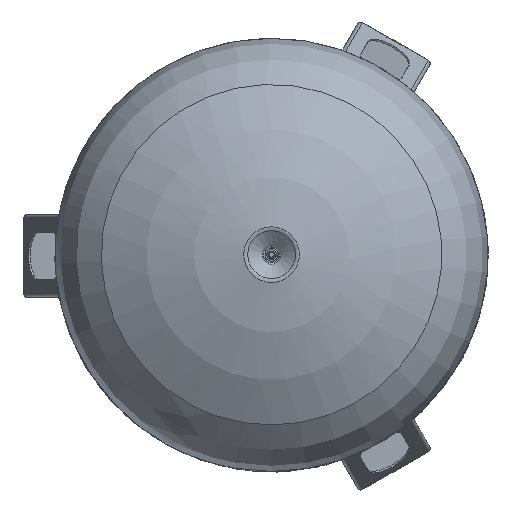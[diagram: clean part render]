
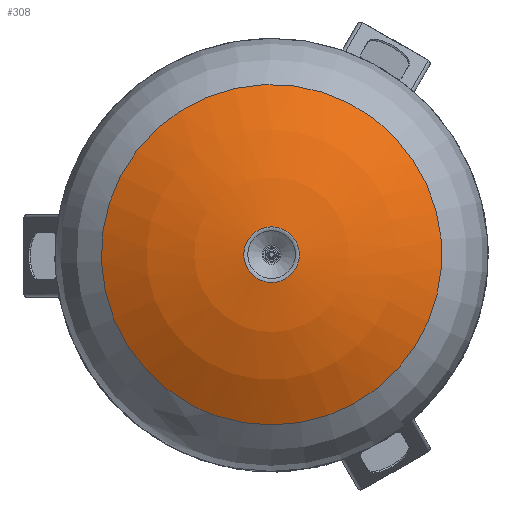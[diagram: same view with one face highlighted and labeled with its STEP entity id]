
A CAD part, top view. The second image highlights one B-rep face of the part: STEP entity #308.
In plain terms, the highlighted spherical face has radius 280 mm.
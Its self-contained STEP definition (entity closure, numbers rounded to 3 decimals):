
#308=ADVANCED_FACE('',(#3663,#3665),#3667,.T.);
#3663=FACE_BOUND('',#3664,.T.);
#3664=EDGE_LOOP('',(#6479,#6480,#6481));
#3665=FACE_BOUND('',#3666,.T.);
#3666=EDGE_LOOP('',(#6482,#6483,#6484));
#3667=SPHERICAL_SURFACE('',#3668,280.);
#3668=AXIS2_PLACEMENT_3D('',#3669,#3670,#3671);
#3669=CARTESIAN_POINT('',(0.,0.,-26.597));
#3670=DIRECTION('',(0.,0.,-1.));
#3671=DIRECTION('',(0.,1.,0.));
#6479=ORIENTED_EDGE('',*,*,#8323,.T.);
#6480=ORIENTED_EDGE('',*,*,#8324,.T.);
#6481=ORIENTED_EDGE('',*,*,#8325,.T.);
#6482=ORIENTED_EDGE('',*,*,#8326,.F.);
#6483=ORIENTED_EDGE('',*,*,#8327,.F.);
#6484=ORIENTED_EDGE('',*,*,#8328,.F.);
#8323=EDGE_CURVE('',#9308,#9309,#9310,.T.);
#8324=EDGE_CURVE('',#9309,#9311,#9312,.T.);
#8325=EDGE_CURVE('',#9311,#9308,#9313,.T.);
#8326=EDGE_CURVE('',#9314,#9315,#9316,.T.);
#8327=EDGE_CURVE('',#9317,#9314,#9318,.T.);
#8328=EDGE_CURVE('',#9315,#9317,#9319,.T.);
#9308=VERTEX_POINT('',#11466);
#9309=VERTEX_POINT('',#11467);
#9310=CIRCLE('',#11468,143.5);
#9311=VERTEX_POINT('',#11472);
#9312=CIRCLE('',#11473,143.5);
#9313=CIRCLE('',#11477,143.5);
#9314=VERTEX_POINT('',#11481);
#9315=VERTEX_POINT('',#11482);
#9316=CIRCLE('',#11483,23.418);
#9317=VERTEX_POINT('',#11487);
#9318=CIRCLE('',#11488,23.418);
#9319=CIRCLE('',#11492,23.418);
#11466=CARTESIAN_POINT('',(86.9,114.195,213.835));
#11467=CARTESIAN_POINT('',(-67.267,-126.757,213.835));
#11468=AXIS2_PLACEMENT_3D('',#11469,#11470,#11471);
#11469=CARTESIAN_POINT('',(0.,0.,213.835));
#11470=DIRECTION('',(0.,0.,1.));
#11471=DIRECTION('',(0.606,0.796,0.));
#11472=CARTESIAN_POINT('',(-45.854,-135.977,213.835));
#11473=AXIS2_PLACEMENT_3D('',#11474,#11475,#11476);
#11474=CARTESIAN_POINT('',(0.,0.,213.835));
#11475=DIRECTION('',(0.,0.,1.));
#11476=DIRECTION('',(-0.469,-0.883,0.));
#11477=AXIS2_PLACEMENT_3D('',#11478,#11479,#11480);
#11478=CARTESIAN_POINT('',(0.,0.,213.835));
#11479=DIRECTION('',(0.,0.,1.));
#11480=DIRECTION('',(-0.32,-0.948,0.));
#11481=CARTESIAN_POINT('',(0.,-23.418,252.422));
#11482=CARTESIAN_POINT('',(0.,23.418,252.422));
#11483=AXIS2_PLACEMENT_3D('',#11484,#11485,#11486);
#11484=CARTESIAN_POINT('',(0.,0.,252.422));
#11485=DIRECTION('',(0.,0.,1.));
#11486=DIRECTION('',(0.,-1.,0.));
#11487=CARTESIAN_POINT('',(-7.483,-22.19,252.422));
#11488=AXIS2_PLACEMENT_3D('',#11489,#11490,#11491);
#11489=CARTESIAN_POINT('',(0.,0.,252.422));
#11490=DIRECTION('',(0.,0.,1.));
#11491=DIRECTION('',(-0.32,-0.948,0.));
#11492=AXIS2_PLACEMENT_3D('',#11493,#11494,#11495);
#11493=CARTESIAN_POINT('',(0.,0.,252.422));
#11494=DIRECTION('',(0.,0.,1.));
#11495=DIRECTION('',(0.,1.,0.));
